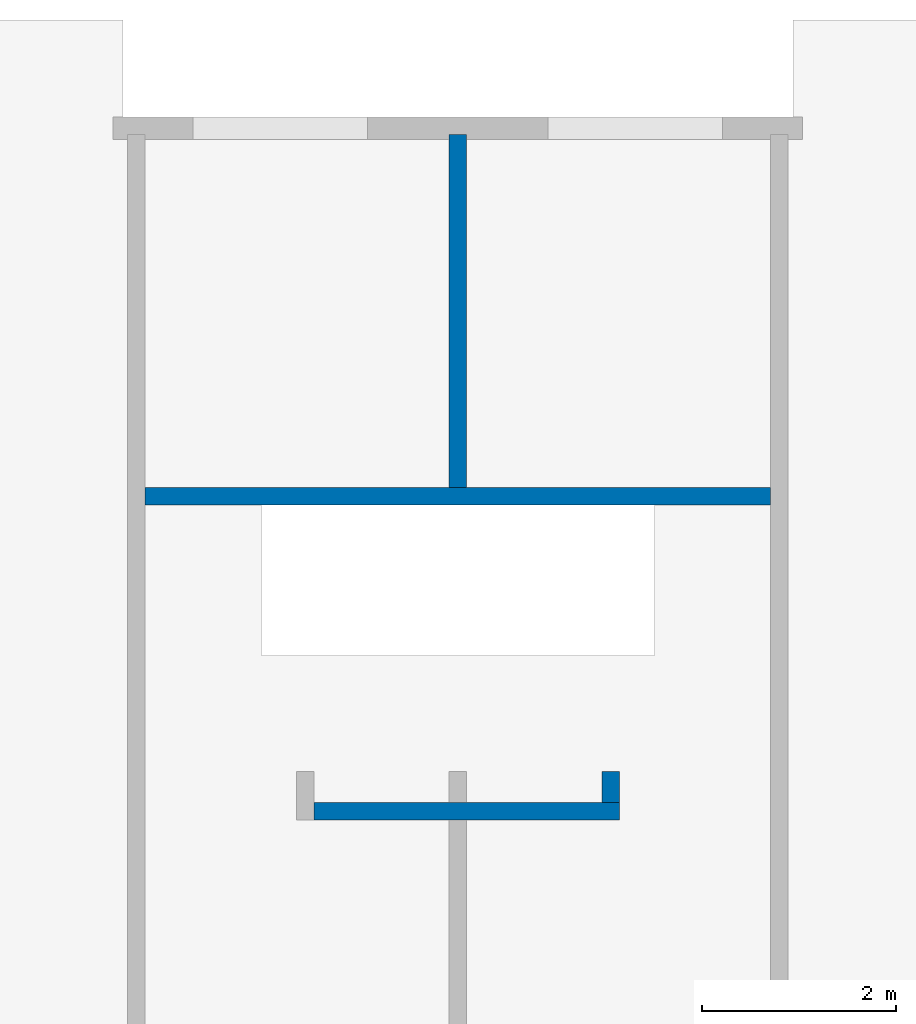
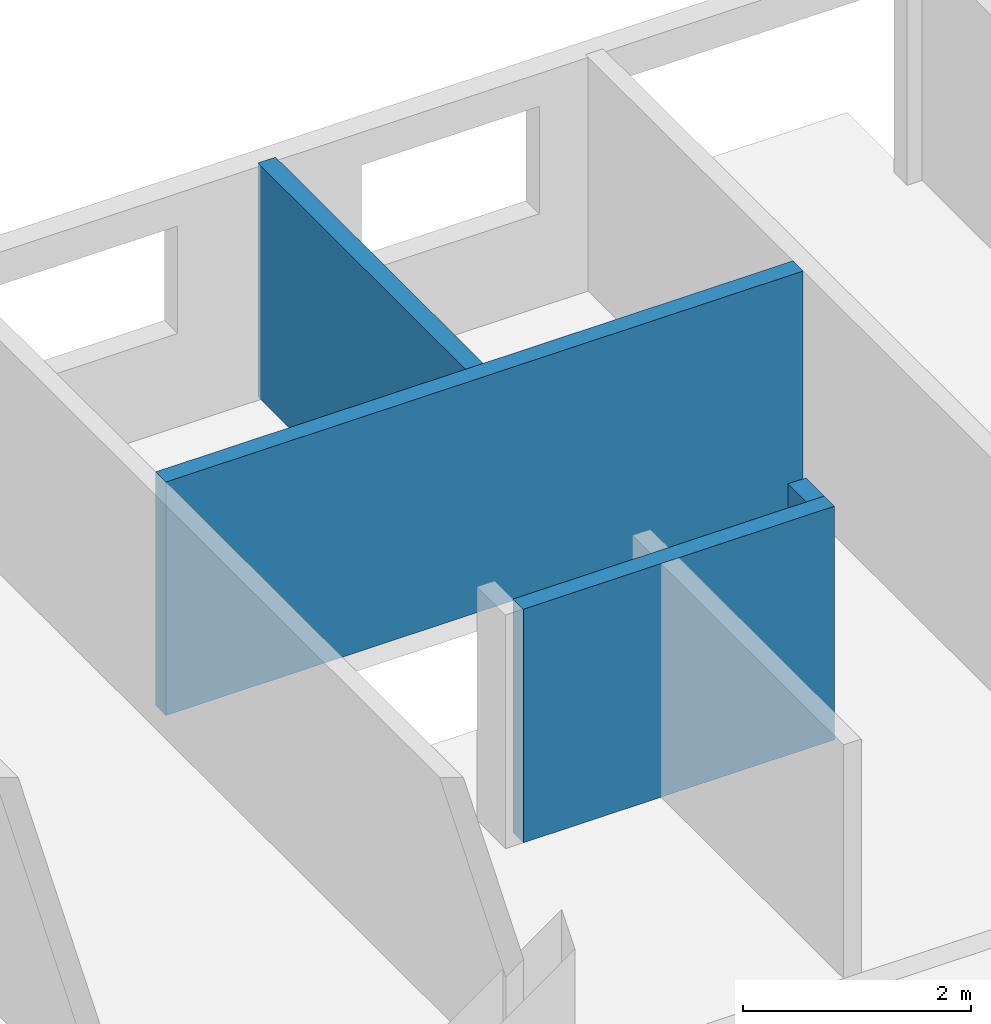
# One storey, part 4 of 9: 4 walls.
"""IFC2X3 building model written with IfcOpenShell, lengths in millimetres."""

from ifc_helpers import new_model, entity, si_unit, converted_unit, frame, frame_2d, origin, origin_with_axes, place, context, subcontext, project, spatial, rectangle, extrude, material, layer, layer_set, layer_usage, element, save


model = new_model("IFC2X3")

# Units and contexts
model_context = context("Model", 3, precision=1e-05, world=origin())
plan_context = context("Plan", 3, precision=1e-05, world=origin())
body_context = subcontext(model_context, "Body", "Model", "MODEL_VIEW")
ifc_project = project(units=[si_unit("LENGTHUNIT", "METRE", prefix="MILLI"), converted_unit("PLANEANGLEUNIT", "DEGREE", entity("IfcPlaneAngleMeasure", 0.0174532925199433), si_unit("PLANEANGLEUNIT", "RADIAN"), dimensions=[0, 0, 0, 0, 0, 0, 0]), si_unit("AREAUNIT", "SQUARE_METRE"), si_unit("VOLUMEUNIT", "CUBIC_METRE")], contexts=[model_context, plan_context])

# Building, storey
building_placement = place(None, origin())
building = spatial("IfcBuilding", under=ifc_project, at=building_placement, Name="Bâtiment", CompositionType="ELEMENT")
storey_placement = place(building_placement, frame((0.0, 0.0, 2700.0), z_axis=(0.0, 0.0, 1.0), x_axis=(1.0, 0.0, 0.0)))
storey = spatial("IfcBuildingStorey", under=building, at=storey_placement, Name="r+1", CompositionType="ELEMENT", Elevation=2700.0)

# Walls
ifc_material_1 = material(Name="moellons")
ifc_layer_1 = layer(ifc_material_1, 180.0)
ifc_layer_set_1 = layer_set([ifc_layer_1])
ifc_layer_usage_1 = layer_usage(ifc_layer_set_1, "AXIS2", "POSITIVE", 0.0)
wall_1_placement = place(storey_placement, frame((29804.99999999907, 6650.077765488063, 0.0), z_axis=(0.0, 0.0, 1.0), x_axis=(0.0, 1.0, 0.0)))
element("IfcWallStandardCase", 1, at=wall_1_placement, inside=storey, material=ifc_layer_usage_1, context=body_context, shape_type="SweptSolid", body=[
    extrude(rectangle(XDim=3639.999999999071, YDim=180.0, at=frame_2d((1819.999999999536, 90.0), x_axis=(1.0, 0.0))), origin_with_axes(), (0.0, 0.0, 1.0), 2500.0),
])
ifc_material_2 = material(Name="moellons")
ifc_layer_2 = layer(ifc_material_2, 180.0)
ifc_layer_set_2 = layer_set([ifc_layer_2])
ifc_layer_usage_2 = layer_usage(ifc_layer_set_2, "AXIS2", "POSITIVE", 0.0)
wall_2_placement = place(storey_placement, frame((32939.9995415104, 6650.077765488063, 0.0), z_axis=(0.0, 0.0, 1.0), x_axis=(-1.0, 0.0, 0.0)))
element("IfcWallStandardCase", 2, at=wall_2_placement, inside=storey, material=ifc_layer_usage_2, context=body_context, shape_type="SweptSolid", body=[
    extrude(rectangle(XDim=6449.999479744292, YDim=180.0, at=frame_2d((3224.999739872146, 90.0), x_axis=(1.0, 0.0))), origin_with_axes(), (0.0, 0.0, 1.0), 2500.0),
])
ifc_material_3 = material(Name="moellons")
ifc_layer_3 = layer(ifc_material_3, 180.0)
ifc_layer_set_3 = layer_set([ifc_layer_3])
ifc_layer_usage_3 = layer_usage(ifc_layer_set_3, "AXIS2", "POSITIVE", 0.0)
wall_3_placement = place(storey_placement, frame((31379.99951490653, 3400.077765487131, 0.0), z_axis=(0.0, 0.0, 1.0), x_axis=(-1.0, 0.0, 0.0)))
element("IfcWallStandardCase", 3, at=wall_3_placement, inside=storey, material=ifc_layer_usage_3, context=body_context, shape_type="SweptSolid", body=[
    extrude(rectangle(XDim=3150.000000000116, YDim=180.0, at=frame_2d((1575.000000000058, 90.0), x_axis=(1.0, 0.0))), origin_with_axes(), (0.0, 0.0, 1.0), 2500.0),
])
ifc_material_4 = material(Name="moellons")
ifc_layer_4 = layer(ifc_material_4, 180.0)
ifc_layer_set_4 = layer_set([ifc_layer_4])
ifc_layer_usage_4 = layer_usage(ifc_layer_set_4, "AXIS2", "POSITIVE", 0.0)
wall_4_placement = place(storey_placement, frame((31199.99951490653, 3720.077765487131, 0.0), z_axis=(0.0, 0.0, 1.0), x_axis=(0.0, -1.0, 0.0)))
element("IfcWallStandardCase", 4, at=wall_4_placement, inside=storey, material=ifc_layer_usage_4, context=body_context, shape_type="SweptSolid", body=[
    extrude(rectangle(XDim=320.0, YDim=180.0, at=frame_2d((160.0, 90.0), x_axis=(1.0, 0.0))), origin_with_axes(), (0.0, 0.0, 1.0), 2500.0),
])

save(model, "model.ifc")
